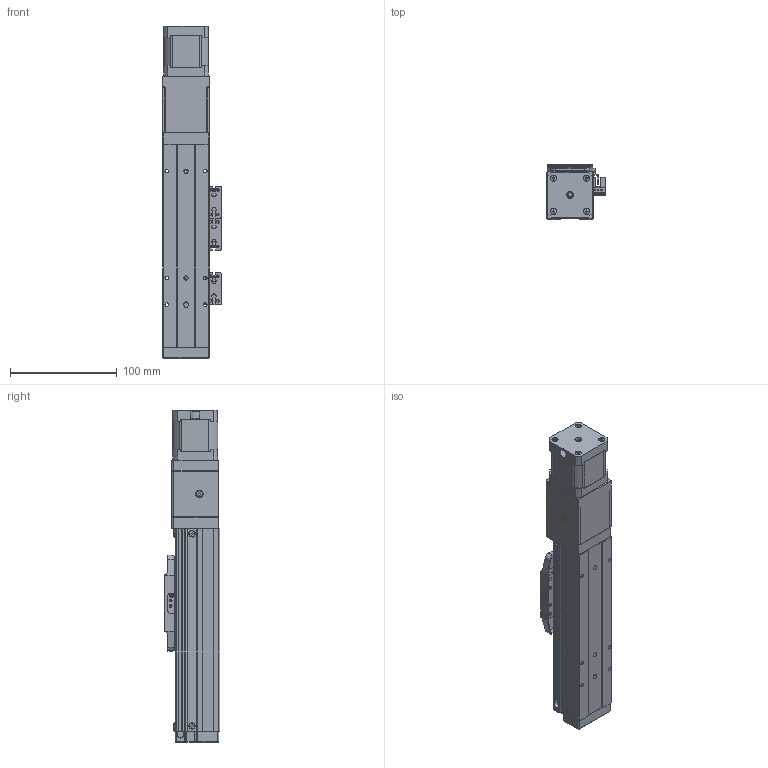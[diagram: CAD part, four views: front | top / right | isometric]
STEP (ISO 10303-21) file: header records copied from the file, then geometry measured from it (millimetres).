
FILE_DESCRIPTION (( 'STEP AP203' ), '1' );
FILE_NAME ('GTH4-50-BC-B42-C4.step', '2023-02-14T00:15:31', ( '微软用户' ), ( '微软中国' ), 'SwSTEP 2.0', 'SolidWorks 2020', '' );
FILE_SCHEMA (( 'CONFIG_CONTROL_DESIGN' ));
Length unit declared in the file: millimetre
Products named in the file (19): BTH40-003; GBT 70.1-M3℅6; BTH40-017; BTH40-006; GBT96.1-2002 3×0.8; BTH40-005-1; BTH-M3X5X6; BTH40-022; 42CM06; GBT70.1-2000 M3×16; GBT 70.1-M2.5×6; GTH4-50-BC-B42-C4; BTH50-028; BTH40-004; BTH50-023; BTH40-013; BTH40-001-50_BTH40-001-50; BTH50-024; GBT 70.3-M3℅6
Assembly tree (49 placements, depth 2):
  GTH4-50-BC-B42-C4
    BTH40-001-50_BTH40-001-50
    BTH40-003
    BTH40-006
    BTH-M3X5X6  x10
    GBT70.1-2000 M3×16  x4
    BTH50-028  x2
    BTH50-023  x3
    BTH50-024  x3
    GBT 70.1-M3℅6  x6
    GBT96.1-2002 3×0.8  x6
    BTH40-022
    GBT 70.1-M2.5×6  x2
    BTH40-004
    BTH40-013
    GBT 70.3-M3℅6  x4
    BTH40-017
    BTH40-005-1
    42CM06
Bounding box: 55.2 x 52 x 311 mm (x, y, z)
Volume: 496433.8 mm3; surface area: 148240.7 mm2
Topology: 58 solids, 58 shells, 3282 faces, 7658 edges, 4596 vertices
Faces by surface type: cone 1475, plane 1112, cylinder 531, torus 128, bspline 24, sphere 12
Entity records: 75090 total; most frequent: DIRECTION 13381, CARTESIAN_POINT 13133, ORIENTED_EDGE 11778, EDGE_CURVE 5889, AXIS2_PLACEMENT_3D 5071, VERTEX_POINT 3527, VECTOR 3239, LINE 3239
